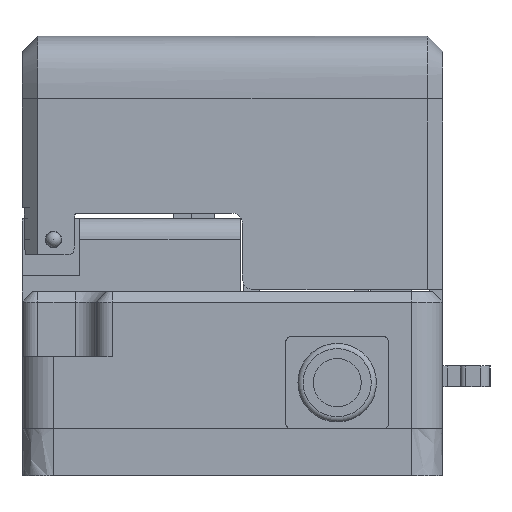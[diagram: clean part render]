
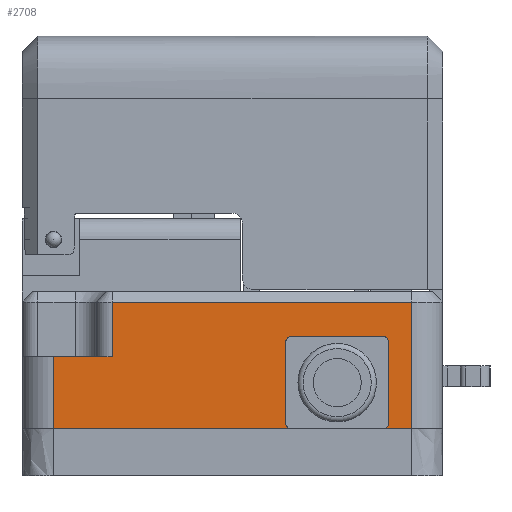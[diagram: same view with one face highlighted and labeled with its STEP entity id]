
A CAD part, left-side view. The second image highlights one B-rep face of the part: STEP entity #2708.
In plain terms, the highlighted planar face has unit normal (-1, 0, 0).
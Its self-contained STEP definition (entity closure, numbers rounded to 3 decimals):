
#2708=ADVANCED_FACE('',(#6681),#4815,.T.);
#4815=PLANE('',#42036);
#6681=FACE_OUTER_BOUND('',#8965,.T.);
#8965=EDGE_LOOP('',(#18131,#18132,#18133,#18134,#18135,#18136));
#18131=ORIENTED_EDGE('',*,*,#28626,.T.);
#18132=ORIENTED_EDGE('',*,*,#28695,.F.);
#18133=ORIENTED_EDGE('',*,*,#28696,.F.);
#18134=ORIENTED_EDGE('',*,*,#28697,.T.);
#18135=ORIENTED_EDGE('',*,*,#28698,.F.);
#18136=ORIENTED_EDGE('',*,*,#28699,.T.);
#23483=VERTEX_POINT('',#60992);
#23484=VERTEX_POINT('',#60994);
#23531=VERTEX_POINT('',#61131);
#23532=VERTEX_POINT('',#61133);
#23533=VERTEX_POINT('',#61135);
#23534=VERTEX_POINT('',#61137);
#28626=EDGE_CURVE('',#23484,#23483,#34207,.T.);
#28695=EDGE_CURVE('',#23531,#23483,#34265,.T.);
#28696=EDGE_CURVE('',#23532,#23531,#34266,.T.);
#28697=EDGE_CURVE('',#23532,#23533,#34267,.T.);
#28698=EDGE_CURVE('',#23534,#23533,#34268,.T.);
#28699=EDGE_CURVE('',#23534,#23484,#34269,.T.);
#34207=LINE('',#60993,#39431);
#34265=LINE('',#61130,#39489);
#34266=LINE('',#61132,#39490);
#34267=LINE('',#61134,#39491);
#34268=LINE('',#61136,#39492);
#34269=LINE('',#61138,#39493);
#39431=VECTOR('',#50121,1.);
#39489=VECTOR('',#50243,1.);
#39490=VECTOR('',#50244,1.);
#39491=VECTOR('',#50245,1.);
#39492=VECTOR('',#50246,1.);
#39493=VECTOR('',#50247,1.);
#42036=AXIS2_PLACEMENT_3D('',#61139,#50248,#50249);
#50121=DIRECTION('',(0.,0.,-1.));
#50243=DIRECTION('',(0.,-1.,0.));
#50244=DIRECTION('',(0.,0.,1.));
#50245=DIRECTION('',(0.,-1.,0.));
#50246=DIRECTION('',(0.,0.,-1.));
#50247=DIRECTION('',(0.,1.,0.));
#50248=DIRECTION('',(-1.,0.,0.));
#50249=DIRECTION('',(0.,0.,1.));
#60992=CARTESIAN_POINT('',(-141.484,71.843,-16.744));
#60993=CARTESIAN_POINT('',(-141.484,71.843,-10.544));
#60994=CARTESIAN_POINT('',(-141.484,71.843,-11.544));
#61130=CARTESIAN_POINT('',(-141.484,78.443,-16.744));
#61131=CARTESIAN_POINT('',(-141.484,77.443,-16.744));
#61132=CARTESIAN_POINT('',(-141.484,77.443,-9.144));
#61133=CARTESIAN_POINT('',(-141.484,77.443,-23.644));
#61134=CARTESIAN_POINT('',(-141.484,61.193,-23.644));
#61135=CARTESIAN_POINT('',(-141.484,43.243,-23.644));
#61136=CARTESIAN_POINT('',(-141.484,43.243,-9.144));
#61137=CARTESIAN_POINT('',(-141.484,43.243,-11.544));
#61138=CARTESIAN_POINT('',(-141.484,71.843,-11.544));
#61139=CARTESIAN_POINT('',(-141.484,78.443,-9.144));
